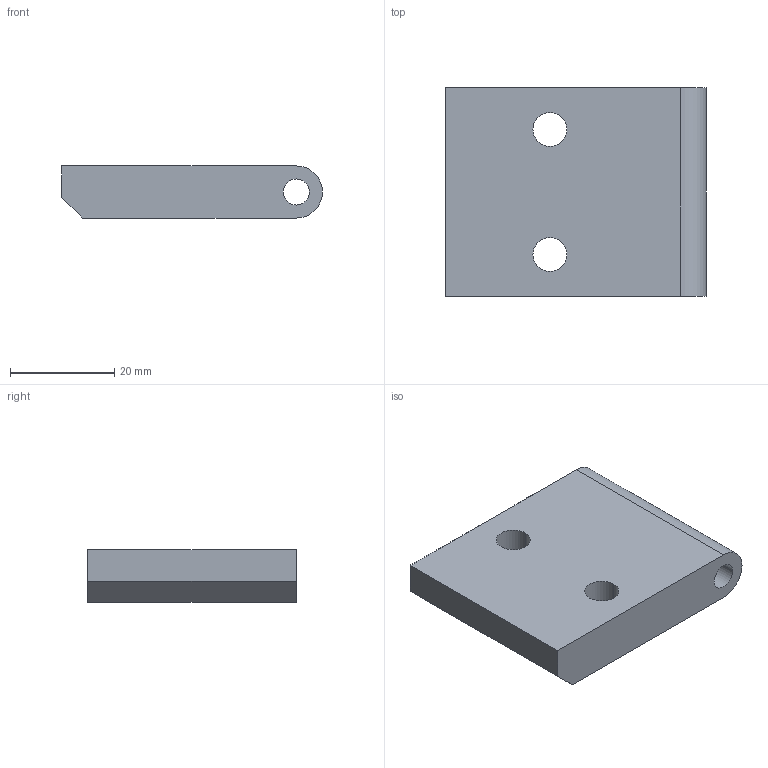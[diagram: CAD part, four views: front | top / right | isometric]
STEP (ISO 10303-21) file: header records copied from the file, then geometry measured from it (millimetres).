
FILE_DESCRIPTION((''),'2;1');
FILE_NAME('CEP45_1','2002-12-27T',('Lipro doo'),('Lipro d.o.o.'),'PRO/ENGINEER BY PARAMETRIC TECHNOLOGY CORPORATION, 2001150','PRO/ENGINEER BY PARAMETRIC TECHNOLOGY CORPORATION, 2001150','');
FILE_SCHEMA(('CONFIG_CONTROL_DESIGN'));
Length unit declared in the file: millimetre
Products named in the file (1): CEP45_1
Bounding box: 50 x 40 x 10 mm (x, y, z)
Volume: 17561.4 mm3; surface area: 6313.5 mm2
Topology: 1 solids, 1 shells, 17 faces, 41 edges, 26 vertices
Faces by surface type: cylinder 7, plane 6, cone 4
Entity records: 551 total; most frequent: DIRECTION 93, CARTESIAN_POINT 84, ORIENTED_EDGE 82, EDGE_CURVE 41, AXIS2_PLACEMENT_3D 35, VERTEX_POINT 26, VECTOR 23, LINE 23
